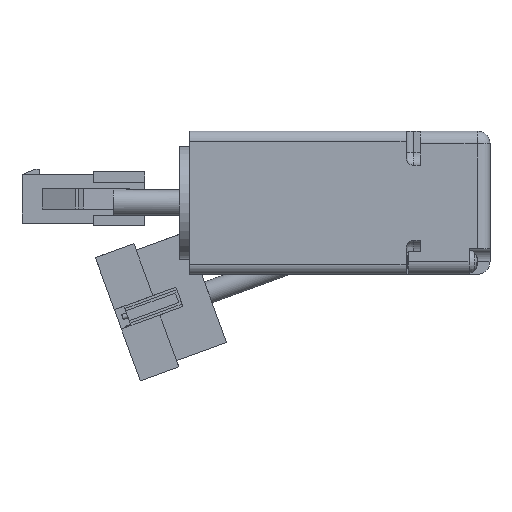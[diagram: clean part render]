
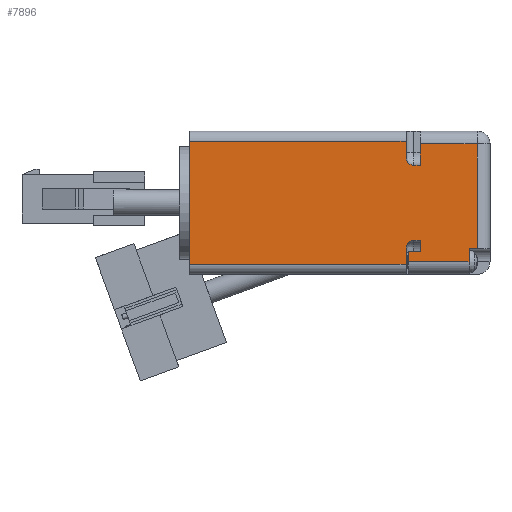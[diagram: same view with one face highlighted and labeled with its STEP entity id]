
A CAD part, front view. The second image highlights one B-rep face of the part: STEP entity #7896.
In plain terms, the highlighted planar face has unit normal (0, -1, 0).
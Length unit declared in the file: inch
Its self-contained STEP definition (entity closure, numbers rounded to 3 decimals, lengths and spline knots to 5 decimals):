
#403=LINE('',#12474,#1129);
#409=LINE('',#12490,#1135);
#412=LINE('',#12505,#1138);
#604=LINE('',#13049,#1330);
#618=LINE('',#13167,#1344);
#631=LINE('',#13193,#1357);
#633=LINE('',#13197,#1359);
#656=LINE('',#13247,#1382);
#662=LINE('',#13259,#1388);
#672=LINE('',#13347,#1398);
#675=LINE('',#13360,#1401);
#690=LINE('',#13404,#1416);
#696=LINE('',#13419,#1422);
#697=LINE('',#13422,#1423);
#698=LINE('',#13424,#1424);
#699=LINE('',#13427,#1425);
#1129=VECTOR('',#9889,0.06299);
#1135=VECTOR('',#9905,0.09843);
#1138=VECTOR('',#9926,0.80709);
#1330=VECTOR('',#10470,0.16339);
#1344=VECTOR('',#10602,0.08465);
#1357=VECTOR('',#10631,0.43701);
#1359=VECTOR('',#10635,0.4685);
#1382=VECTOR('',#10704,0.07874);
#1388=VECTOR('',#10718,0.09449);
#1398=VECTOR('',#10828,1.66142);
#1401=VECTOR('',#10839,1.66142);
#1416=VECTOR('',#10880,0.94488);
#1422=VECTOR('',#10894,0.05118);
#1423=VECTOR('',#10897,0.12402);
#1424=VECTOR('',#10898,0.12402);
#1425=VECTOR('',#10901,0.05118);
#2047=FACE_OUTER_BOUND('',#2802,.T.);
#2802=EDGE_LOOP('',(#6960,#6961,#6962,#6963,#6964,#6965,#6966,#6967,#6968,
#6969,#6970,#6971,#6972,#6973,#6974,#6975,#6976,#6977));
#3161=CIRCLE('',#8680,0.05906);
#3162=CIRCLE('',#8681,0.05906);
#3585=VERTEX_POINT('',#12471);
#3586=VERTEX_POINT('',#12473);
#3591=VERTEX_POINT('',#12489);
#3594=VERTEX_POINT('',#12501);
#3768=VERTEX_POINT('',#13045);
#3770=VERTEX_POINT('',#13048);
#3814=VERTEX_POINT('',#13164);
#3815=VERTEX_POINT('',#13166);
#3821=VERTEX_POINT('',#13196);
#3825=VERTEX_POINT('',#13246);
#3854=VERTEX_POINT('',#13345);
#3855=VERTEX_POINT('',#13346);
#3860=VERTEX_POINT('',#13357);
#3861=VERTEX_POINT('',#13359);
#3882=VERTEX_POINT('',#13418);
#3883=VERTEX_POINT('',#13420);
#3884=VERTEX_POINT('',#13423);
#3885=VERTEX_POINT('',#13425);
#4478=EDGE_CURVE('',#3586,#3585,#403,.T.);
#4486=EDGE_CURVE('',#3586,#3591,#409,.T.);
#4494=EDGE_CURVE('',#3585,#3594,#412,.T.);
#4762=EDGE_CURVE('',#3770,#3768,#604,.T.);
#4813=EDGE_CURVE('',#3815,#3814,#618,.T.);
#4828=EDGE_CURVE('',#3594,#3770,#631,.T.);
#4830=EDGE_CURVE('',#3591,#3821,#633,.T.);
#4854=EDGE_CURVE('',#3821,#3825,#656,.T.);
#4861=EDGE_CURVE('',#3825,#3814,#662,.T.);
#4893=EDGE_CURVE('',#3854,#3855,#672,.T.);
#4899=EDGE_CURVE('',#3861,#3860,#675,.T.);
#4921=EDGE_CURVE('',#3861,#3855,#690,.T.);
#4929=EDGE_CURVE('',#3882,#3768,#696,.T.);
#4930=EDGE_CURVE('',#3882,#3883,#3161,.T.);
#4931=EDGE_CURVE('',#3854,#3883,#697,.T.);
#4932=EDGE_CURVE('',#3884,#3860,#698,.T.);
#4933=EDGE_CURVE('',#3884,#3885,#3162,.T.);
#4934=EDGE_CURVE('',#3885,#3815,#699,.T.);
#6960=ORIENTED_EDGE('',*,*,#4929,.F.);
#6961=ORIENTED_EDGE('',*,*,#4930,.T.);
#6962=ORIENTED_EDGE('',*,*,#4931,.F.);
#6963=ORIENTED_EDGE('',*,*,#4893,.T.);
#6964=ORIENTED_EDGE('',*,*,#4921,.F.);
#6965=ORIENTED_EDGE('',*,*,#4899,.T.);
#6966=ORIENTED_EDGE('',*,*,#4932,.F.);
#6967=ORIENTED_EDGE('',*,*,#4933,.T.);
#6968=ORIENTED_EDGE('',*,*,#4934,.T.);
#6969=ORIENTED_EDGE('',*,*,#4813,.T.);
#6970=ORIENTED_EDGE('',*,*,#4861,.F.);
#6971=ORIENTED_EDGE('',*,*,#4854,.F.);
#6972=ORIENTED_EDGE('',*,*,#4830,.F.);
#6973=ORIENTED_EDGE('',*,*,#4486,.F.);
#6974=ORIENTED_EDGE('',*,*,#4478,.T.);
#6975=ORIENTED_EDGE('',*,*,#4494,.T.);
#6976=ORIENTED_EDGE('',*,*,#4828,.T.);
#6977=ORIENTED_EDGE('',*,*,#4762,.T.);
#7444=PLANE('',#8679);
#7896=ADVANCED_FACE('',(#2047),#7444,.F.);
#8679=AXIS2_PLACEMENT_3D('',#13417,#10892,#10893);
#8680=AXIS2_PLACEMENT_3D('',#13421,#10895,#10896);
#8681=AXIS2_PLACEMENT_3D('',#13426,#10899,#10900);
#9889=DIRECTION('',(1.,0.,0.));
#9905=DIRECTION('',(0.,0.,-1.));
#9926=DIRECTION('',(0.,0.,1.));
#10470=DIRECTION('',(0.,0.,-1.));
#10602=DIRECTION('',(0.,0.,-1.));
#10631=DIRECTION('',(-1.,0.,0.));
#10635=DIRECTION('',(-1.,0.,0.));
#10704=DIRECTION('',(0.,0.,1.));
#10718=DIRECTION('',(1.,0.,0.));
#10828=DIRECTION('',(-1.,0.,0.));
#10839=DIRECTION('',(1.,0.,0.));
#10880=DIRECTION('',(0.,0.,1.));
#10892=DIRECTION('center_axis',(0.,1.,0.));
#10893=DIRECTION('ref_axis',(-1.,0.,0.));
#10894=DIRECTION('',(1.,0.,0.));
#10895=DIRECTION('center_axis',(0.,1.,0.));
#10896=DIRECTION('ref_axis',(-1.,0.,0.));
#10897=DIRECTION('',(0.,0.,-1.));
#10898=DIRECTION('',(0.,0.,-1.));
#10899=DIRECTION('center_axis',(0.,1.,0.));
#10900=DIRECTION('ref_axis',(-1.,0.,0.));
#10901=DIRECTION('',(1.,0.,0.));
#12471=CARTESIAN_POINT('',(0.43701,-0.50013,-0.47869));
#12473=CARTESIAN_POINT('',(0.37402,-0.50013,-0.47869));
#12474=CARTESIAN_POINT('',(0.37402,-0.50013,-0.47869));
#12489=CARTESIAN_POINT('',(0.37402,-0.50013,-0.57711));
#12490=CARTESIAN_POINT('',(0.37402,-0.50013,-0.47869));
#12501=CARTESIAN_POINT('',(0.43701,-0.50013,0.3284));
#12505=CARTESIAN_POINT('',(0.43701,-0.50013,0.3284));
#13045=CARTESIAN_POINT('',(0.,-0.50013,0.16501));
#13048=CARTESIAN_POINT('',(0.,-0.50013,0.3284));
#13049=CARTESIAN_POINT('',(0.,-0.50013,0.74432));
#13164=CARTESIAN_POINT('',(0.,-0.50013,-0.49837));
#13166=CARTESIAN_POINT('',(0.,-0.50013,-0.41373));
#13167=CARTESIAN_POINT('',(0.,-0.50013,0.74432));
#13193=CARTESIAN_POINT('',(0.53543,-0.50013,0.3284));
#13196=CARTESIAN_POINT('',(-0.09449,-0.50013,-0.57711));
#13197=CARTESIAN_POINT('',(0.53543,-0.50013,-0.57711));
#13246=CARTESIAN_POINT('',(-0.09449,-0.50013,-0.49837));
#13247=CARTESIAN_POINT('',(-0.09449,-0.50013,-0.57711));
#13259=CARTESIAN_POINT('',(-0.09449,-0.50013,-0.49837));
#13345=CARTESIAN_POINT('',(-0.11024,-0.50013,0.34809));
#13346=CARTESIAN_POINT('',(-1.77165,-0.50013,0.34809));
#13347=CARTESIAN_POINT('',(-1.77165,-0.50013,0.34809));
#13357=CARTESIAN_POINT('',(-0.11024,-0.50013,-0.5968));
#13359=CARTESIAN_POINT('',(-1.77165,-0.50013,-0.5968));
#13360=CARTESIAN_POINT('',(-1.77165,-0.50013,-0.5968));
#13404=CARTESIAN_POINT('',(-1.77165,-0.50013,-0.67554));
#13417=CARTESIAN_POINT('Origin',(-1.77165,-0.50013,-0.67554));
#13418=CARTESIAN_POINT('',(-0.05118,-0.50013,0.16501));
#13419=CARTESIAN_POINT('',(-0.11024,-0.50013,0.16501));
#13420=CARTESIAN_POINT('',(-0.11024,-0.50013,0.22407));
#13421=CARTESIAN_POINT('Origin',(-0.05118,-0.50013,
0.22407));
#13422=CARTESIAN_POINT('',(-0.11024,-0.50013,0.34809));
#13423=CARTESIAN_POINT('',(-0.11024,-0.50013,-0.47278));
#13424=CARTESIAN_POINT('',(-0.11024,-0.50013,-0.5968));
#13425=CARTESIAN_POINT('',(-0.05118,-0.50013,-0.41373));
#13426=CARTESIAN_POINT('Origin',(-0.05118,-0.50013,
-0.47278));
#13427=CARTESIAN_POINT('',(-0.11024,-0.50013,-0.41373));
